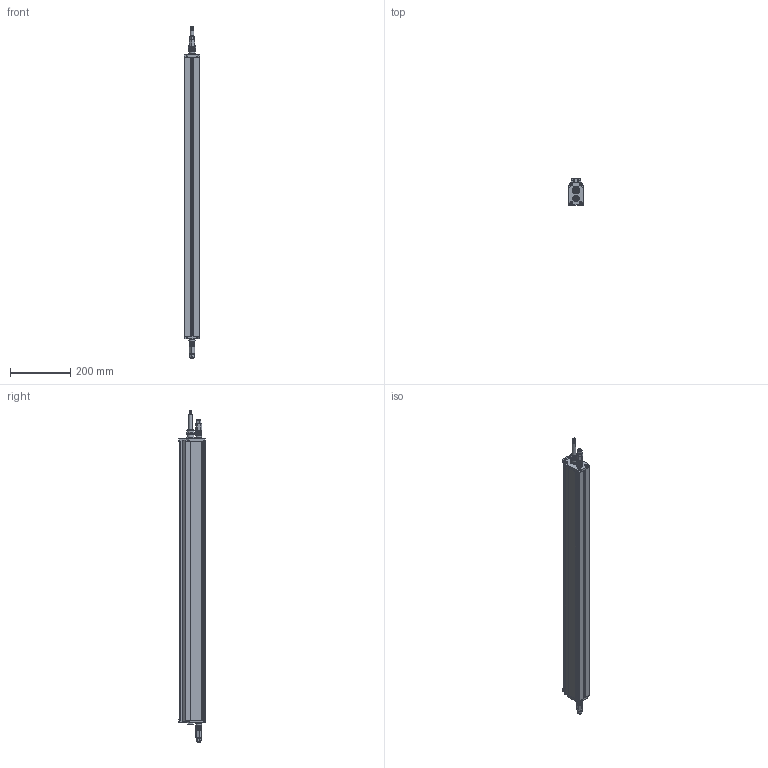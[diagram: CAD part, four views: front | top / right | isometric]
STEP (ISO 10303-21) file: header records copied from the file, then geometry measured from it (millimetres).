
FILE_DESCRIPTION (( 'STEP AP214' ), '1' );
FILE_NAME ('EFFI-LINE3-WTR-900-ZZZ-PWR-FLY-LXX.STEP', '2024-05-14T08:05:28', ( '' ), ( '' ), 'SwSTEP 2.0', 'SolidWorks 2024', '' );
FILE_SCHEMA (( 'AUTOMOTIVE_DESIGN' ));
Length unit declared in the file: millimetre
Products named in the file (1): EFFI-LINE3-WTR-900-ZZZ-PWR-FLY-LXX
Bounding box: 52 x 86.25 x 1098.33 mm (x, y, z)
Surface area: 338946.5 mm2 (no closed solid volume)
Topology: 0 solids, 69 shells, 699 faces, 2171 edges, 1522 vertices
Faces by surface type: plane 255, cylinder 242, cone 106, torus 96
Entity records: 25280 total; most frequent: CARTESIAN_POINT 5991, DIRECTION 4358, ORIENTED_EDGE 3429, EDGE_CURVE 2167, AXIS2_PLACEMENT_3D 1704, VERTEX_POINT 1522, CIRCLE 1004, VECTOR 950
